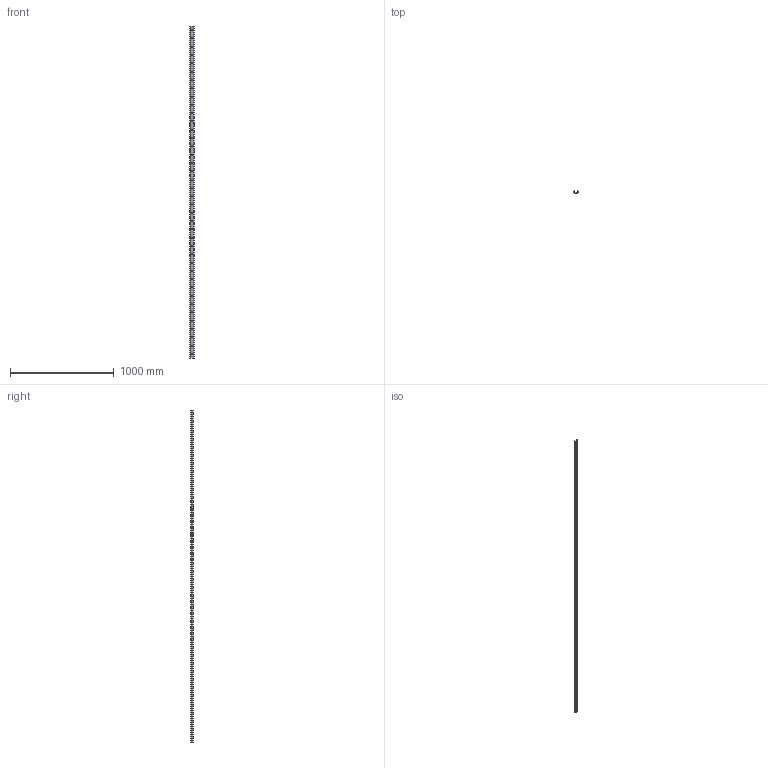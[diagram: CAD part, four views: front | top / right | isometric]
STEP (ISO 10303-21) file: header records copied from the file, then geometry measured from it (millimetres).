
FILE_DESCRIPTION(('STEP AP214'),'1');
FILE_NAME('rail_tex40-3200.stp','2019-03-08T08:33:53',('TraceParts'),('TraceParts S.A.'),'Spatial InterOp 3D',' ',' ');
FILE_SCHEMA(('automotive_design'));
Length unit declared in the file: millimetre
Products named in the file (1): rail_tex40-3200
Bounding box: 39.53 x 21 x 3200 mm (x, y, z)
Volume: 625666.2 mm3; surface area: 440619.3 mm2
Topology: 1 solids, 1 shells, 676 faces, 1752 edges, 1168 vertices
Faces by surface type: plane 474, bspline 110, cylinder 92
Entity records: 42873 total; most frequent: CARTESIAN_POINT 21267, ORIENTED_EDGE 3504, DIRECTION 2850, EDGE_CURVE 1752, LINE 1348, VECTOR 1348, VERTEX_POINT 1168, EDGE_LOOP 846
